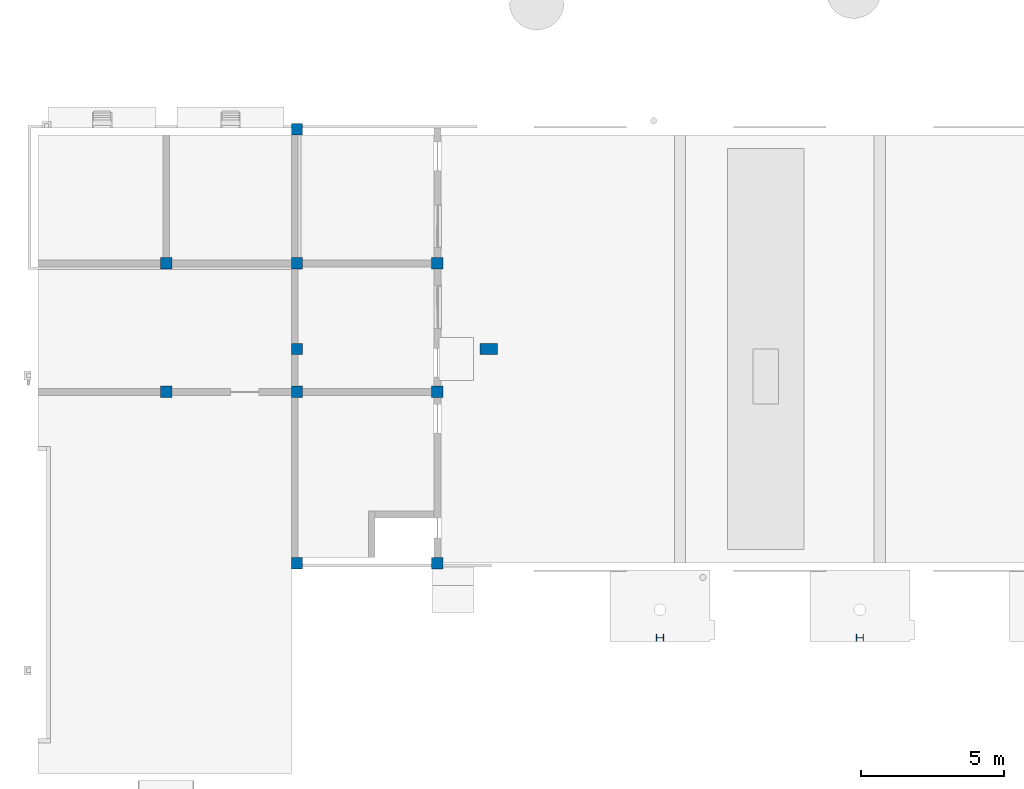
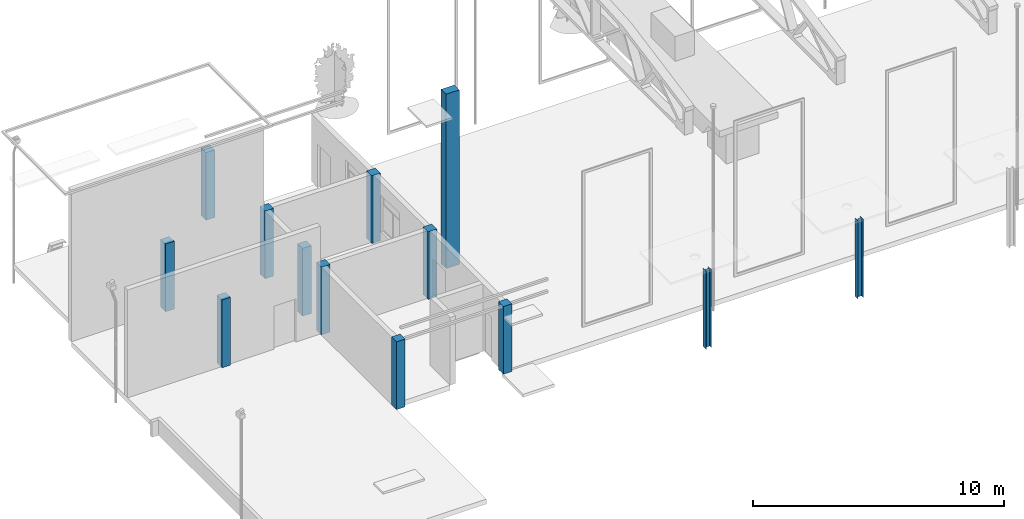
# One storey, part 1 of 14: 13 columns.
"""IFC2X3 building model written with IfcOpenShell, lengths in millimetres."""

import ifcopenshell
import ifcopenshell.guid

model = None  # the IFC model being written
_history = None  # IfcOwnerHistory: only IFC2X3 demands one
_inside = {}  # id of a spatial element -> (the spatial element, [elements in it])
_under = {}  # id of a project, library or spatial element -> (it, [spatial elements below it])
_declared = {}  # id of a project -> (the project, [libraries it declares])
_typed = {}  # id of a type object -> (the type object, [elements of that type])
_made_of = {}  # id of a material, layer set ... -> (it, [elements and type objects made of it])


def new_model(schema):
    """Start an empty IFC model of exactly this schema.

    Asked for "IFC4X3", IfcOpenShell would pick the latest addendum, in which some entities
    have other attributes; the version numbers below select the first issue.
    IFC2X3 requires an IfcOwnerHistory on every rooted entity: one is made here for all.
    """
    global model, _history
    if schema == "IFC4X3":
        model = ifcopenshell.file(schema_version=(4, 3, 0, 0))
    else:
        model = ifcopenshell.file(schema=schema)
    _inside.clear()
    _under.clear()
    _declared.clear()
    _typed.clear()
    _made_of.clear()
    _history = None
    if model.schema == "IFC2X3":
        org = make("IfcOrganization", Name="unknown")
        user = make(
            "IfcPersonAndOrganization",
            ThePerson=make("IfcPerson", FamilyName="unknown"),
            TheOrganization=org,
        )
        app = make(
            "IfcApplication",
            ApplicationDeveloper=org,
            Version="unknown",
            ApplicationFullName="unknown",
            ApplicationIdentifier="unknown",
        )
        _history = make(
            "IfcOwnerHistory",
            OwningUser=user,
            OwningApplication=app,
            ChangeAction="ADDED",
            CreationDate=0,
        )
    return model


def make(cls, **values):
    """One entity of the class cls with the attributes given. An attribute that is None is left unset."""
    return model.create_entity(
        cls, **{name: value for name, value in values.items() if value is not None}
    )


def entity(cls, *values):
    """Any entity or typed value of the class cls, its attributes in the order of the schema. None: left unset."""
    e = model.create_entity(cls)
    for i, value in enumerate(values):
        if value is not None:
            e[i] = value
    return e


def rooted(cls, **values):
    """An entity with a GlobalId (a new one), such as an element, a storey or a relation."""
    return make(cls, GlobalId=ifcopenshell.guid.new(), OwnerHistory=_history, **values)


def si_unit(unit_type, name, prefix=None):
    """IfcSIUnit, for example si_unit("LENGTHUNIT", "METRE", prefix="MILLI")."""
    return make("IfcSIUnit", UnitType=unit_type, Prefix=prefix, Name=name)


def converted_unit(unit_type, name, factor, base, dimensions=None, offset=None):
    """IfcConversionBasedUnit, such as the inch: factor (a typed value) times the base unit."""
    return make(
        "IfcConversionBasedUnit"
        if offset is None
        else "IfcConversionBasedUnitWithOffset",
        ConversionOffset=offset,
        Dimensions=None
        if dimensions is None
        else entity("IfcDimensionalExponents", *dimensions),
        UnitType=unit_type,
        Name=name,
        ConversionFactor=make(
            "IfcMeasureWithUnit", ValueComponent=factor, UnitComponent=base
        ),
    )


def derived_unit(unit_type, elements):
    """IfcDerivedUnit: a product of units, each with its exponent."""
    return make(
        "IfcDerivedUnit",
        Elements=[
            make("IfcDerivedUnitElement", Unit=unit, Exponent=power)
            for unit, power in elements
        ],
        UnitType=unit_type,
    )


def assignment(units):
    """IfcUnitAssignment: the units of a project."""
    return None if units is None else make("IfcUnitAssignment", Units=units)


def point(xyz):
    """IfcCartesianPoint."""
    return None if xyz is None else make("IfcCartesianPoint", Coordinates=xyz)


def direction(xyz):
    """IfcDirection."""
    return None if xyz is None else make("IfcDirection", DirectionRatios=xyz)


def frame(location, z_axis=None, x_axis=None):
    """IfcAxis2Placement3D, a coordinate frame: its origin and axes. An axis left out is left unset."""
    return make(
        "IfcAxis2Placement3D",
        Location=point(location),
        Axis=direction(z_axis),
        RefDirection=direction(x_axis),
    )


def frame_2d(location, x_axis=None):
    """IfcAxis2Placement2D, a coordinate frame in the plane: its origin and x axis."""
    return make(
        "IfcAxis2Placement2D", Location=point(location), RefDirection=direction(x_axis)
    )


def origin():
    """The frame at (0, 0, 0) with its axes left unset."""
    return frame((0.0, 0.0, 0.0))


def origin_2d_with_axis():
    """The frame at (0, 0) in the plane with the x axis (1, 0) written out."""
    return frame_2d((0.0, 0.0), x_axis=(1.0, 0.0))


def place(relative_to, where):
    """IfcLocalPlacement: puts the frame where relative to a parent placement (None: the world)."""
    return make(
        "IfcLocalPlacement", PlacementRelTo=relative_to, RelativePlacement=where
    )


def context(
    kind, dimensions, precision=None, world=None, true_north=None, identifier=None
):
    """IfcGeometricRepresentationContext, for example the 3D "Model" context."""
    return make(
        "IfcGeometricRepresentationContext",
        ContextIdentifier=identifier,
        ContextType=kind,
        CoordinateSpaceDimension=dimensions,
        Precision=precision,
        WorldCoordinateSystem=world,
        TrueNorth=true_north,
    )


def subcontext(parent, identifier, kind, view, scale=None):
    """IfcGeometricRepresentationSubContext, for example "Body" below "Model"."""
    return make(
        "IfcGeometricRepresentationSubContext",
        ContextIdentifier=identifier,
        ContextType=kind,
        ParentContext=parent,
        TargetScale=scale,
        TargetView=view,
    )


def project(units=None, contexts=None):
    """IfcProject with its units and contexts."""
    return rooted(
        "IfcProject",
        Name="project",
        RepresentationContexts=contexts,
        UnitsInContext=assignment(units),
    )


def spatial(cls, under=None, at=None, **own):
    """A site, building, storey or space (cls), placed at a placement, below another one or the project."""
    s = rooted(cls, ObjectPlacement=at, **own)
    if under is not None:
        _under.setdefault(under.id(), (under, []))[1].append(s)
    return s


def polyline(points):
    """IfcPolyline through the points."""
    return make("IfcPolyline", Points=[point(p) for p in points])


def circle_curve(where, radius):
    """IfcCircle in the frame where."""
    return make("IfcCircle", Position=where, Radius=radius)


def parameter(value):
    """IfcParameterValue: where a trimmed curve begins or ends, as a parameter of its basis curve."""
    return model.create_entity("IfcParameterValue", value)


def trimmed(basis, trim1, trim2, sense, master):
    """IfcTrimmedCurve: the piece of a basis curve between two trims."""
    return make(
        "IfcTrimmedCurve",
        BasisCurve=basis,
        Trim1=trim1,
        Trim2=trim2,
        SenseAgreement=sense,
        MasterRepresentation=master,
    )


def segment(curve, same_sense, transition):
    """IfcCompositeCurveSegment."""
    return make(
        "IfcCompositeCurveSegment",
        Transition=transition,
        SameSense=same_sense,
        ParentCurve=curve,
    )


def composite_curve(segments, self_intersect=None):
    """IfcCompositeCurve: segments joined end to end."""
    return make("IfcCompositeCurve", Segments=segments, SelfIntersect=self_intersect)


def profile(cls, at=None, kind="AREA", **sizes):
    """A parametric profile (cls). Its sizes go by their IFC names, for example OverallWidth=200.0."""
    return make(cls, ProfileType=kind, Position=at, **sizes)


def rectangle(**sizes):
    """IfcRectangleProfileDef."""
    return profile("IfcRectangleProfileDef", **sizes)


def outline(outer, holes=None, kind="AREA"):
    """IfcArbitraryClosedProfileDef: a profile drawn as a closed curve; with holes, ...WithVoids."""
    if holes is None:
        return make("IfcArbitraryClosedProfileDef", ProfileType=kind, OuterCurve=outer)
    return make(
        "IfcArbitraryProfileDefWithVoids",
        ProfileType=kind,
        OuterCurve=outer,
        InnerCurves=holes,
    )


def extrude(swept, where, along, depth):
    """IfcExtrudedAreaSolid: the profile swept, set in the frame where, extruded along a direction by depth."""
    return make(
        "IfcExtrudedAreaSolid",
        SweptArea=swept,
        Position=where,
        ExtrudedDirection=direction(along),
        Depth=depth,
    )


def shape(context_of_items, identifier, shape_type, items):
    """IfcShapeRepresentation: the items that make up one representation, for example the "Body"."""
    return make(
        "IfcShapeRepresentation",
        ContextOfItems=context_of_items,
        RepresentationIdentifier=identifier,
        RepresentationType=shape_type,
        Items=items,
    )


def source(mapping_origin, context_of_items, identifier, shape_type, items):
    """IfcRepresentationMap: a shape defined once, which mapped items show again and again."""
    return make(
        "IfcRepresentationMap",
        MappingOrigin=mapping_origin,
        MappedRepresentation=shape(context_of_items, identifier, shape_type, items),
    )


def transform(
    local_origin,
    x_axis=None,
    y_axis=None,
    z_axis=None,
    scale=None,
    scale2=None,
    scale3=None,
    uniform=True,
):
    """IfcCartesianTransformationOperator3D, or its non-uniform kind. x_axis, y_axis, z_axis: its Axis1, 2, 3."""
    if uniform:
        return make(
            "IfcCartesianTransformationOperator3D",
            Axis1=direction(x_axis),
            Axis2=direction(y_axis),
            LocalOrigin=point(local_origin),
            Scale=scale,
            Axis3=direction(z_axis),
        )
    return make(
        "IfcCartesianTransformationOperator3DnonUniform",
        Axis1=direction(x_axis),
        Axis2=direction(y_axis),
        LocalOrigin=point(local_origin),
        Scale=scale,
        Axis3=direction(z_axis),
        Scale2=scale2,
        Scale3=scale3,
    )


def mapped(mapping_source, mapping_target):
    """IfcMappedItem: shows the shape of a source again, moved by a transform."""
    return make(
        "IfcMappedItem", MappingSource=mapping_source, MappingTarget=mapping_target
    )


def material(Name=None, Category=None):
    """IfcMaterial."""
    return make("IfcMaterial", Name=Name, Category=Category)


def made_of(thing, what):
    """Note that an element or type object is made of a material, layer set ...; save() writes the relation."""
    if what is not None:
        _made_of.setdefault(what.id(), (what, []))[1].append(thing)
    return thing


def type_object(cls, material=None, **own):
    """A type object (cls), such as IfcWallType, which elements share."""
    return made_of(rooted(cls, **own), material)


def type_shapes(of_type, sources):
    """Give a type object the sources (RepresentationMaps) that its elements show as mapped items."""
    of_type.RepresentationMaps = sources


def element(
    cls,
    number,
    at=None,
    inside=None,
    cuts=None,
    type_object=None,
    material=None,
    context=None,
    identifier="Body",
    shape_type=None,
    held_by="IfcProductDefinitionShape",
    body=None,
    shapes=None,
    **own,
):
    """One element of the class cls, such as IfcWall. Its Tag is "e" and its number.

    at: its placement. inside: the storey or other place that contains it. cuts: it is an
    opening in that element (IfcRelVoidsElement). A single representation is given by context,
    identifier, shape_type and body (its items); several are given by shapes. held_by: the class
    of the entity that holds the representations. save() writes the other relations.
    """
    e = rooted(cls, Tag="e%d" % number, ObjectPlacement=at, **own)
    if body is not None:
        shapes = [shape(context, identifier, shape_type, body)]
    if shapes is not None:
        e.Representation = make(held_by, Representations=shapes)
    if inside is not None:
        _inside.setdefault(inside.id(), (inside, []))[1].append(e)
    if cuts is not None:
        rooted(
            "IfcRelVoidsElement", RelatingBuildingElement=cuts, RelatedOpeningElement=e
        )
    if type_object is not None:
        _typed.setdefault(type_object.id(), (type_object, []))[1].append(e)
    return made_of(e, material)


def aggregate(whole, parts):
    """IfcRelAggregates: a whole, such as a stair, and the parts it consists of."""
    return rooted("IfcRelAggregates", RelatingObject=whole, RelatedObjects=parts)


def save(model, path):
    """Write the relations noted so far, then the file.

    IfcRelAggregates (storeys below a building ...), IfcRelContainedInSpatialStructure (elements
    in a storey), IfcRelDefinesByType, IfcRelAssociatesMaterial and IfcRelDeclares: one each for
    every whole, place, type object, material and project.
    """
    for whole, parts in _under.values():
        aggregate(whole, parts)
    for where, things in _inside.values():
        rooted(
            "IfcRelContainedInSpatialStructure",
            RelatedElements=things,
            RelatingStructure=where,
        )
    for kind, things in _typed.values():
        rooted("IfcRelDefinesByType", RelatedObjects=things, RelatingType=kind)
    for what, things in _made_of.values():
        rooted("IfcRelAssociatesMaterial", RelatedObjects=things, RelatingMaterial=what)
    for by, libraries in _declared.values():
        rooted("IfcRelDeclares", RelatingContext=by, RelatedDefinitions=libraries)
    model.write(path)


model = new_model("IFC2X3")

# Units and contexts
model_context = context("Model", 3, precision=0.01, world=origin(), true_north=direction((6.12303176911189e-17, 1.0)))
body_context = subcontext(model_context, "Body", "Model", "MODEL_VIEW")
ifc_project = project(units=[si_unit("LENGTHUNIT", "METRE", prefix="MILLI"), si_unit("AREAUNIT", "SQUARE_METRE"), si_unit("VOLUMEUNIT", "CUBIC_METRE"), converted_unit("PLANEANGLEUNIT", "DEGREE", entity("IfcRatioMeasure", 0.0174532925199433), si_unit("PLANEANGLEUNIT", "RADIAN"), dimensions=[0, 0, 0, 0, 0, 0, 0]), si_unit("MASSUNIT", "GRAM", prefix="KILO"), derived_unit("MASSDENSITYUNIT", [(si_unit("MASSUNIT", "GRAM", prefix="KILO"), 1), (si_unit("LENGTHUNIT", "METRE"), -3)]), si_unit("TIMEUNIT", "SECOND"), si_unit("FREQUENCYUNIT", "HERTZ"), si_unit("THERMODYNAMICTEMPERATUREUNIT", "DEGREE_CELSIUS"), derived_unit("THERMALTRANSMITTANCEUNIT", [(si_unit("MASSUNIT", "GRAM", prefix="KILO"), 1), (si_unit("THERMODYNAMICTEMPERATUREUNIT", "KELVIN"), -1), (si_unit("TIMEUNIT", "SECOND"), -3)]), derived_unit("VOLUMETRICFLOWRATEUNIT", [(si_unit("LENGTHUNIT", "METRE"), 3), (si_unit("TIMEUNIT", "SECOND"), -1)]), si_unit("ELECTRICCURRENTUNIT", "AMPERE"), si_unit("ELECTRICVOLTAGEUNIT", "VOLT"), si_unit("POWERUNIT", "WATT"), si_unit("FORCEUNIT", "NEWTON", prefix="KILO"), si_unit("ILLUMINANCEUNIT", "LUX"), si_unit("LUMINOUSFLUXUNIT", "LUMEN"), si_unit("LUMINOUSINTENSITYUNIT", "CANDELA"), derived_unit("USERDEFINED", [(si_unit("MASSUNIT", "GRAM", prefix="KILO"), -1), (si_unit("LENGTHUNIT", "METRE"), -2), (si_unit("TIMEUNIT", "SECOND"), 3), (si_unit("LUMINOUSFLUXUNIT", "LUMEN"), 1)]), derived_unit("LINEARVELOCITYUNIT", [(si_unit("LENGTHUNIT", "METRE"), 1), (si_unit("TIMEUNIT", "SECOND"), -1)]), si_unit("PRESSUREUNIT", "PASCAL"), derived_unit("USERDEFINED", [(si_unit("LENGTHUNIT", "METRE"), -2), (si_unit("MASSUNIT", "GRAM", prefix="KILO"), 1), (si_unit("TIMEUNIT", "SECOND"), -2)])], contexts=[model_context])

# Site, building, storey
site_placement = place(None, origin())
site = spatial("IfcSite", under=ifc_project, at=site_placement, Name="表面", CompositionType="ELEMENT")
building_placement = place(site_placement, origin())
building = spatial("IfcBuilding", under=site, at=building_placement, CompositionType="ELEMENT")
storey_placement = place(building_placement, origin())
storey = spatial("IfcBuildingStorey", under=building, at=storey_placement, Name="±0.000", CompositionType="ELEMENT", Elevation=0.0)

# Columns
ifc_material_1 = material(Name="混凝土 - 结构柱涂黑")
column_type_1 = type_object("IfcColumnType", Name="400 x 400mm", PredefinedType="COLUMN", material=ifc_material_1)
shared_shape_1 = source(origin(), body_context, "Body", "SweptSolid", [
    extrude(rectangle(XDim=400.0, YDim=400.0, at=origin_2d_with_axis()), frame((0.0, 0.0, 0.0), z_axis=(0.0, 0.0, 1.0), x_axis=(0.0, -1.0, 0.0)), (0.0, 0.0, 1.0), 3300.0),
])
type_shapes(column_type_1, [shared_shape_1])
for number, where, z_axis, x_axis in (
    (1, (-38448.798781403, 609.697407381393, 0.0), (0.0, 0.0, 1.0), (-1.0, 0.0, 0.0)),
    (2, (-38448.798781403, 6609.69740738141, 0.0), (0.0, 0.0, 1.0), (-1.0, 0.0, 0.0)),
    (3, (-38448.798781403, 8109.69740738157, 0.0), (0.0, 0.0, 1.0), (-1.0, 0.0, 0.0)),
    (4, (-38448.798781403, 11109.6974073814, 0.0), (0.0, 0.0, 1.0), (-1.0, 0.0, 0.0)),
    (5, (-38448.798781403, 15809.6974073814, 0.0), (0.0, 0.0, 1.0), (-1.0, 0.0, 0.0)),
    (6, (-33528.798781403, 609.697407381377, 0.0), (0.0, 0.0, 1.0), (-1.0, 0.0, 0.0)),
    (7, (-33528.798781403, 6609.6974073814, 0.0), (0.0, 0.0, 1.0), (-1.0, 0.0, 0.0)),
    (8, (-33528.798781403, 11109.6974073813, 0.0), (0.0, 0.0, 1.0), (-1.0, 0.0, 0.0)),
):
    element("IfcColumn", number, at=place(storey_placement, frame(where, z_axis=z_axis, x_axis=x_axis)), inside=storey, type_object=column_type_1, material=ifc_material_1, Name="M_矩形-结构柱:400 x 400mm", ObjectType="400 x 400mm", context=body_context, shape_type="MappedRepresentation", body=[
        mapped(shared_shape_1, transform((0.0, 0.0, 0.0), scale=1.0)),
    ])
column_type_2 = type_object("IfcColumnType", Name="400 x 400mm", PredefinedType="COLUMN", material=ifc_material_1)
shared_shape_2 = source(origin(), body_context, "Body", "SweptSolid", [
    extrude(rectangle(XDim=400.0, YDim=400.0, at=origin_2d_with_axis()), frame((0.0, 0.0, 0.0), z_axis=(0.0, 0.0, 1.0), x_axis=(0.0, -1.0, 0.0)), (0.0, 0.0, 1.0), 3300.0),
])
type_shapes(column_type_2, [shared_shape_2])
for number, where in (
    (9, (-43028.798781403, 11109.6974073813, 0.0)),
    (10, (-43028.798781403, 6609.6974073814, 0.0)),
):
    element("IfcColumn", number, at=place(storey_placement, frame(where)), inside=storey, type_object=column_type_2, material=ifc_material_1, Name="M_矩形-结构柱:400 x 400mm", ObjectType="400 x 400mm", context=body_context, shape_type="MappedRepresentation", body=[
        mapped(shared_shape_2, transform((0.0, 0.0, 0.0), scale=1.0)),
    ])
column_type_3 = type_object("IfcColumnType", Name="400 x 600mm", PredefinedType="COLUMN", material=ifc_material_1)
shared_shape_3 = source(origin(), body_context, "Body", "SweptSolid", [
    extrude(rectangle(XDim=600.0, YDim=400.0, at=origin_2d_with_axis()), frame((0.0, 0.0, 0.0), z_axis=(0.0, 0.0, 1.0), x_axis=(0.0, -1.0, 0.0)), (0.0, 0.0, 1.0), 8500.0),
])
type_shapes(column_type_3, [shared_shape_3])
column_placement = place(storey_placement, frame((-31728.798781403, 8109.69740738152, 0.0), z_axis=(0.0, 0.0, 1.0), x_axis=(0.0, 1.0, 0.0)))
element("IfcColumn", 11, at=column_placement, inside=storey, type_object=column_type_3, material=ifc_material_1, Name="M_矩形-结构柱:400 x 600mm", ObjectType="400 x 600mm", context=body_context, shape_type="MappedRepresentation", body=[
    mapped(shared_shape_3, transform((0.0, 0.0, 0.0), scale=1.0)),
])
ifc_material_2 = material(Name="金属 - 钢 - 345 MPa")
column_type_4 = type_object("IfcColumnType", Name="W250X73", PredefinedType="COLUMN", material=ifc_material_2)
shared_shape_4 = source(origin(), body_context, "Body", "SweptSolid", [
    extrude(outline(composite_curve([segment(polyline([(112.3, -127.0), (126.5, -127.0)]), True, "CONTINUOUS"), segment(polyline([(126.5, -127.0), (126.5, 127.0)]), True, "CONTINUOUS"), segment(polyline([(126.5, 127.0), (112.3, 127.0)]), True, "CONTINUOUS"), segment(polyline([(112.3, 127.0), (112.3, 21.1)]), True, "CONTINUOUS"), segment(trimmed(circle_curve(frame_2d((95.4999999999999, 21.1000000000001), x_axis=(1.0, 0.0)), 16.8000000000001), [parameter(270.0)], [parameter(0.0)], True, "PARAMETER"), False, "CONTINUOUS"), segment(polyline([(95.5, 4.30000000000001), (-95.5, 4.30000000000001)]), True, "CONTINUOUS"), segment(trimmed(circle_curve(frame_2d((-95.5, 21.1), x_axis=(0.0, -1.0)), 16.8), [parameter(270.0)], [parameter(0.0)], True, "PARAMETER"), False, "CONTINUOUS"), segment(polyline([(-112.3, 21.1), (-112.3, 127.0)]), True, "CONTINUOUS"), segment(polyline([(-112.3, 127.0), (-126.5, 127.0)]), True, "CONTINUOUS"), segment(polyline([(-126.5, 127.0), (-126.5, -127.0)]), True, "CONTINUOUS"), segment(polyline([(-126.5, -127.0), (-112.3, -127.0)]), True, "CONTINUOUS"), segment(polyline([(-112.3, -127.0), (-112.3, -21.1)]), True, "CONTINUOUS"), segment(trimmed(circle_curve(frame_2d((-95.5, -21.1), x_axis=(-1.0, 0.0)), 16.8), [parameter(270.0)], [parameter(0.0)], True, "PARAMETER"), False, "CONTINUOUS"), segment(polyline([(-95.5, -4.3), (95.5, -4.3)]), True, "CONTINUOUS"), segment(trimmed(circle_curve(frame_2d((95.5, -21.1), x_axis=(0.0, 1.0)), 16.8), [parameter(270.0)], [parameter(0.0)], True, "PARAMETER"), False, "CONTINUOUS"), segment(polyline([(112.3, -21.1), (112.3, -127.0)]), True, "CONTINUOUS")], self_intersect=False)), frame((0.0, 0.0, 0.0), z_axis=(0.0, 0.0, 1.0), x_axis=(0.0, -1.0, 0.0)), (0.0, 0.0, 1.0), 3800.0),
])
type_shapes(column_type_4, [shared_shape_4])
for number, where, z_axis, x_axis in (
    (12, (-25728.798781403, -2003.09994881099, 0.0), (0.0, 0.0, 1.0), (0.0, 1.0, 0.0)),
    (13, (-18728.798781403, -2003.09994881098, 0.0), (0.0, 0.0, 1.0), (0.0, 1.0, 0.0)),
):
    element("IfcColumn", number, at=place(storey_placement, frame(where, z_axis=z_axis, x_axis=x_axis)), inside=storey, type_object=column_type_4, material=ifc_material_2, Name="W-宽翼缘-柱:W250X73", ObjectType="W250X73", context=body_context, shape_type="MappedRepresentation", body=[
        mapped(shared_shape_4, transform((0.0, 0.0, 0.0), scale=1.0)),
    ])

save(model, "model.ifc")
